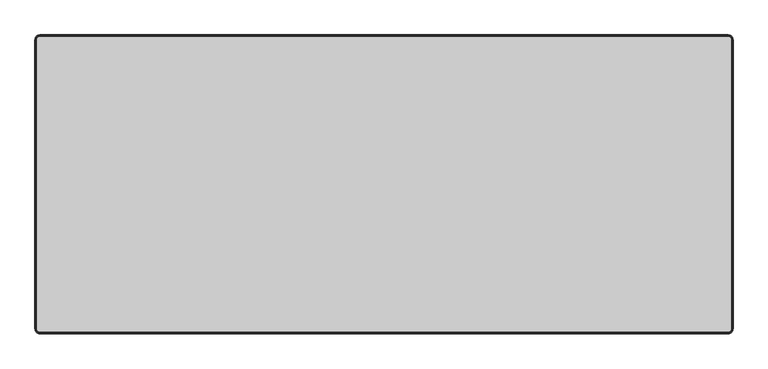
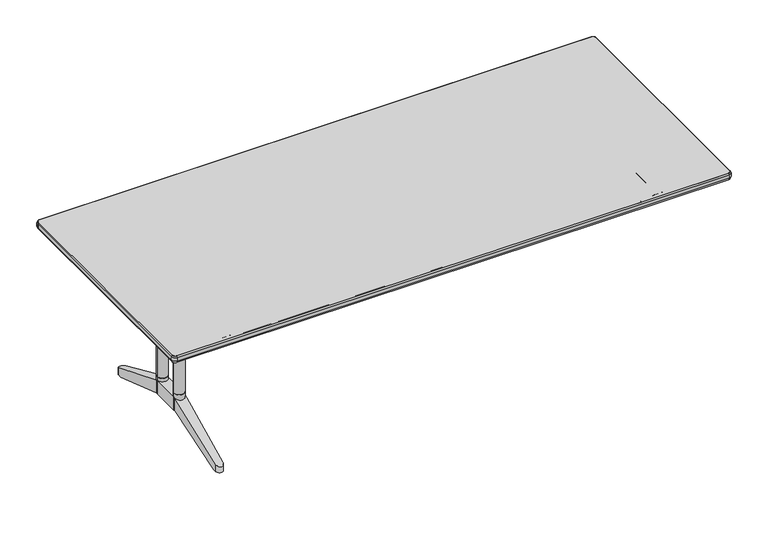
"""IFC4 building model written with IfcOpenShell, lengths in millimetres: furniture geometry."""

from ifc_helpers import new_model, si_unit, point, frame, frame_2d, origin, place, context, project, spatial, polyline, circle_curve, ellipse_curve, trimmed, segment, composite_curve, outline, extrude, source, transform, mapped, element, save
from ifc_brep_helpers import plane_surface, cylinder_surface, revolved_surface, advanced_brep


def furniture_46e24882(model_context):
    return source(origin(), model_context, "Body", "SolidModel", [
        extrude(outline(composite_curve([segment(trimmed(circle_curve(frame_2d((-812.8, -154.0488451)), 20.0), [point((-832.8, -154.0488451))], [point((-792.8, -154.0488451))], False, "CARTESIAN"), True, "CONTINUOUS"), segment(trimmed(circle_curve(frame_2d((-812.8, -154.0488451)), 20.0), [point((-792.8, -154.0488451))], [point((-832.8, -154.0488451))], False, "CARTESIAN"), True, "CONTINUOUS")], self_intersect=False)), frame((0.0, 0.0, 193.3080085), z_axis=(0.0, 0.0, 1.0), x_axis=(1.0, 0.0, 0.0)), (0.0, 0.0, 1.0), 68.8536941),
        extrude(outline(composite_curve([segment(trimmed(circle_curve(frame_2d((-812.8, -44.0488461)), 20.0), [point((-832.8, -44.0488461))], [point((-792.8, -44.0488461))], False, "CARTESIAN"), True, "CONTINUOUS"), segment(trimmed(circle_curve(frame_2d((-812.8, -44.0488461)), 20.0), [point((-792.8, -44.0488461))], [point((-832.8, -44.0488461))], False, "CARTESIAN"), True, "CONTINUOUS")], self_intersect=False)), frame((0.0, 0.0, 193.3080085), z_axis=(0.0, 0.0, 1.0), x_axis=(1.0, 0.0, 0.0)), (0.0, 0.0, 1.0), 68.8536941),
        extrude(outline(composite_curve([segment(trimmed(circle_curve(frame_2d((-812.8, -154.0488451)), 20.0), [point((-832.8, -154.0488451))], [point((-792.8, -154.0488451))], False, "CARTESIAN"), True, "CONTINUOUS"), segment(trimmed(circle_curve(frame_2d((-812.8, -154.0488451)), 20.0), [point((-792.8, -154.0488451))], [point((-832.8, -154.0488451))], False, "CARTESIAN"), True, "CONTINUOUS")], self_intersect=False)), frame((0.0, 0.0, 262.1617027), z_axis=(0.0, 0.0, 1.0), x_axis=(1.0, 0.0, 0.0)), (0.0, 0.0, 1.0), 318.0882973),
        extrude(outline(composite_curve([segment(trimmed(circle_curve(frame_2d((-812.8, -44.0488461)), 20.0), [point((-832.8, -44.0488461))], [point((-792.8, -44.0488461))], False, "CARTESIAN"), True, "CONTINUOUS"), segment(trimmed(circle_curve(frame_2d((-812.8, -44.0488461)), 20.0), [point((-792.8, -44.0488461))], [point((-832.8, -44.0488461))], False, "CARTESIAN"), True, "CONTINUOUS")], self_intersect=False)), frame((0.0, 0.0, 262.1617027), z_axis=(0.0, 0.0, 1.0), x_axis=(1.0, 0.0, 0.0)), (0.0, 0.0, 1.0), 318.0882973),
        extrude(outline(polyline([(-786.7999882, 147.9511612), (-786.7999882, -352.0488426), (-838.8000118, -352.0488426), (-838.8000118, 147.9511612), (-786.7999882, 147.9511612)])), frame((0.0, 0.0, 676.2500168), z_axis=(0.0, 0.0, 1.0), x_axis=(1.0, 0.0, 0.0)), (0.0, 0.0, 1.0), 27.9999624),
        advanced_brep(
        [(-827.7998762, -140.8200278, 676.2500168), (-797.7998905, -140.8201331, 676.2500168), (-797.7998905, -134.0488456, 676.2500168), (-827.7998762, -134.0488456, 676.2500168), (-797.7998905, -57.2775581, 676.2500168), (-827.7998762, -57.2776634, 676.2500168), (-827.7998762, -64.0488456, 676.2500168), (-797.7998905, -64.0488456, 676.2500168), (-827.7998762, -57.2776634, 580.25), (-797.7998905, -57.2775581, 580.25), (-797.7998905, -140.8201331, 580.25), (-827.7998762, -140.8200278, 580.25), (-827.7998762, -134.0488456, 598.2500176), (-827.7998762, -64.0488456, 598.2500176), (-797.7998905, -64.0488456, 598.2500176), (-797.7998905, -134.0488456, 598.2500176)],
        [
            (0, 1, circle_curve(frame((-812.7999298, -154.0488451, 676.2500168), z_axis=(0.0, 0.0, 1.0), x_axis=(1.0, 0.0, 0.0)), 20.0)),
            (1, 2),
            (2, 3),
            (3, 0),
            (4, 5, circle_curve(frame((-812.7999298, -44.0488461, 676.2500168), z_axis=(0.0, 0.0, 1.0), x_axis=(1.0, 0.0, 0.0)), 20.0)),
            (5, 6),
            (6, 7),
            (7, 4),
            (8, 9, circle_curve(frame((-812.7999298, -44.0488461, 580.25), z_axis=(0.0, 0.0, -1.0), x_axis=(1.0, 0.0, 0.0)), 20.0)),
            (9, 10),
            (10, 11, circle_curve(frame((-812.7999298, -154.0488451, 580.25), z_axis=(0.0, 0.0, -1.0), x_axis=(1.0, 0.0, 0.0)), 20.0)),
            (11, 8),
            (11, 0),
            (3, 12),
            (12, 13),
            (13, 6),
            (5, 8),
            (10, 1),
            (9, 4),
            (7, 14),
            (14, 15),
            (15, 2),
            (15, 12),
            (14, 13),
        ],
        [
            plane_surface(frame((-827.7998762, -140.8200278, 676.2500168), z_axis=(0.0, 0.0, 1.0), x_axis=(0.0, -1.0, 0.0))),
            plane_surface(frame((-827.7998762, -140.8200278, 580.25), z_axis=(0.0, 0.0, -1.0), x_axis=(0.0, 1.0, 0.0))),
            plane_surface(frame((-827.7998762, -57.2776634, 676.2500168), z_axis=(-1.0, 0.0, 0.0), x_axis=(0.0, 0.0, -1.0))),
            cylinder_surface(frame((-812.7999298, -154.0488451, 580.25), z_axis=(0.0, 0.0, 1.0), x_axis=(1.0, 0.0, 0.0)), 20.0),
            plane_surface(frame((-797.7998905, -140.8201331, 676.2500168), z_axis=(1.0, 0.0, 0.0), x_axis=(0.0, 0.0, -1.0))),
            cylinder_surface(frame((-812.7999298, -44.0488461, 580.25), z_axis=(0.0, 0.0, 1.0), x_axis=(1.0, 0.0, 0.0)), 20.0),
            plane_surface(frame((-797.7998905, -134.0488456, 676.2500168), z_axis=(0.0, 1.0, 0.0), x_axis=(-1.0, 0.0, 0.0))),
            plane_surface(frame((-797.7998905, -134.0488456, 598.2500176), z_axis=(0.0, 0.0, 1.0), x_axis=(-1.0, 0.0, 0.0))),
            plane_surface(frame((-797.7998905, -64.0488456, 598.2500176), z_axis=(0.0, -1.0, 0.0), x_axis=(-1.0, 0.0, 0.0))),
        ],
        [
            (0, [[1, 2, 3, 4]]),
            (0, [[5, 6, 7, 8]]),
            (1, [[9, 10, 11, 12]]),
            (2, [[-12, 13, -4, 14, 15, 16, -6, 17]]),
            (3, [[-1, -13, -11, 18]]),
            (4, [[-10, 19, -8, 20, 21, 22, -2, -18]]),
            (5, [[-5, -19, -9, -17]]),
            (6, [[23, -14, -3, -22]]),
            (7, [[-23, -21, 24, -15]]),
            (8, [[-24, -20, -7, -16]]),
        ],
    ),
        advanced_brep(
        [(-792.8000182, -154.0488451, 248.3080085), (-792.8000182, -44.0488461, 248.3080085), (-832.8000182, -44.0488461, 248.3080085), (-832.8000182, -154.0488451, 248.3080085), (-832.8000182, -44.0488461, 193.3080085), (-832.8000182, -154.0488451, 193.3080085), (-792.8000182, -154.0488451, 193.3080085), (-792.8000182, -44.0488461, 193.3080085), (-799.3271049, 208.4135103, 105.0), (-826.272897, 208.4135103, 105.0), (-825.9262294, 221.8222582, 105.0), (-799.6737706, 221.8222564, 105.0), (-825.9262294, 221.8222582, 133.4205559), (-799.6737706, 221.8222564, 133.4205567), (-793.0000412, -36.3121196, 193.3080085), (-832.5999941, -36.3121196, 193.3080085), (-799.6737706, -419.9199475, 133.4205567), (-825.9262294, -419.9199493, 133.4205559), (-799.6737706, -419.9199475, 105.0), (-799.3271049, -406.5112014, 105.0), (-793.0000412, -161.7855715, 193.3080085), (-825.9262294, -419.9199493, 105.0), (-832.5999941, -161.7855715, 193.3080085), (-826.272897, -406.5112014, 105.0)],
        [
            (0, 1),
            (1, 2),
            (2, 3),
            (3, 0),
            (2, 4),
            (4, 5),
            (5, 3),
            (0, 6),
            (6, 7),
            (7, 1),
            (8, 9),
            (9, 10),
            (10, 11, circle_curve(frame((-812.8, 221.4828948, 105.0), z_axis=(0.0, 0.0, -1.0), x_axis=(1.0, 0.0, 0.0)), 13.1306156)),
            (11, 8),
            (12, 2),
            (1, 13),
            (13, 12, ellipse_curve(frame((-812.8, 221.4828948, 133.5672007), z_axis=(0.0, 0.3966672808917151, 0.9179624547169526), x_axis=(0.0, 0.9179624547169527, -0.39666728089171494)), 14.3040878, 13.1306156)),
            (8, 14),
            (14, 15),
            (15, 9),
            (16, 0),
            (3, 17),
            (17, 16, ellipse_curve(frame((-812.8, -419.5805859, 133.5672007), z_axis=(0.0, -0.3966672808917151, 0.9179624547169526), x_axis=(0.0, -0.9179624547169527, -0.39666728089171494)), 14.3040878, 13.1306156)),
            (16, 18),
            (18, 19),
            (19, 20),
            (20, 6),
            (17, 21),
            (21, 18, circle_curve(frame((-812.8, -419.5805859, 105.0), z_axis=(0.0, 0.0, 1.0), x_axis=(1.0, 0.0, 0.0)), 13.1306156)),
            (5, 22),
            (22, 23),
            (23, 21),
            (12, 10),
            (15, 4),
            (13, 11),
            (7, 14),
            (23, 19),
            (22, 20),
        ],
        [
            plane_surface(frame((-792.8000182, -44.0488461, 248.3080085), z_axis=(0.0, 0.0, 1.0), x_axis=(0.0, 1.0, 0.0))),
            plane_surface(frame((-832.8000182, -44.0488461, 248.3080085), z_axis=(-1.0, 0.0, 0.0), x_axis=(0.0, 0.0, -1.0))),
            plane_surface(frame((-792.8000182, -154.0488451, 248.3080085), z_axis=(1.0, 0.0, 0.0), x_axis=(0.0, 0.0, -1.0))),
            plane_surface(frame((-791.4205415, 208.4135103, 105.0), z_axis=(0.0, 0.0, -1.0), x_axis=(-1.0, 0.0, 0.0))),
            plane_surface(frame((-791.4205415, 235.9511544, 127.3152182), z_axis=(0.0, 0.3966672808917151, 0.9179624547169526), x_axis=(-1.0, 0.0, 0.0))),
            plane_surface(frame((-791.4205415, -36.3121196, 193.3080085), z_axis=(0.0, -0.3394229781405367, -0.9406338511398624), x_axis=(-1.0, 0.0, 0.0))),
            plane_surface(frame((-791.4205415, -154.0488451, 248.3080085), z_axis=(0.0, -0.3966672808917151, 0.9179624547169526), x_axis=(-1.0, 0.0, 0.0))),
            plane_surface(frame((-792.8000182, -154.0488451, 249.0000084), z_axis=(0.9996659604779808, -0.025845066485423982, 0.0), x_axis=(0.0, 0.0, -1.0))),
            cylinder_surface(frame((-812.8, -419.5805859, 90.0000025), z_axis=(0.0, 0.0, -1.0), x_axis=(1.0, 0.0, 0.0)), 13.1306156),
            plane_surface(frame((-825.9262294, -419.9199493, 249.0000084), z_axis=(-0.9996659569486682, -0.025845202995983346, 0.0), x_axis=(0.0, 0.0, -1.0))),
            plane_surface(frame((-832.8000182, -44.0488461, 249.0000084), z_axis=(-0.9996659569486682, 0.025845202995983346, 0.0), x_axis=(0.0, 0.0, -1.0))),
            cylinder_surface(frame((-812.8, 221.4828948, 0.0), z_axis=(0.0, 0.0, -1.0), x_axis=(1.0, 0.0, 0.0)), 13.1306156),
            plane_surface(frame((-799.6737706, 221.8222564, 249.0000084), z_axis=(0.9996659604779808, 0.025845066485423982, 0.0), x_axis=(0.0, 0.0, -1.0))),
            plane_surface(frame((-791.4205415, -434.0488456, 105.0), z_axis=(0.0, 0.0, -1.0), x_axis=(-1.0, 0.0, 0.0))),
            plane_surface(frame((-791.4205415, -406.5112014, 105.0), z_axis=(0.0, 0.3394229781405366, -0.9406338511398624), x_axis=(-1.0, 0.0, 0.0))),
            plane_surface(frame((-791.4205415, -44.0488461, 193.3080085), z_axis=(0.0, 0.0, -1.0), x_axis=(-1.0, 0.0, 0.0))),
        ],
        [
            (0, [[1, 2, 3, 4]]),
            (1, [[-3, 5, 6, 7]]),
            (2, [[-1, 8, 9, 10]]),
            (3, [[11, 12, 13, 14]]),
            (4, [[15, -2, 16, 17]]),
            (5, [[-11, 18, 19, 20]]),
            (6, [[21, -4, 22, 23]]),
            (7, [[24, 25, 26, 27, -8, -21]]),
            (8, [[-24, -23, 28, 29]]),
            (9, [[-28, -22, -7, 30, 31, 32]]),
            (10, [[33, -12, -20, 34, -5, -15]]),
            (11, [[-33, -17, 35, -13]]),
            (12, [[-35, -16, -10, 36, -18, -14]]),
            (13, [[37, -25, -29, -32]]),
            (14, [[-37, -31, 38, -26]]),
            (15, [[-19, -36, -9, -27, -38, -30, -6, -34]]),
        ],
    ),
        extrude(outline(composite_curve([segment(trimmed(circle_curve(frame_2d((-1051.8, 343.1511544)), 10.0), [point((-1061.8, 343.1511544))], [point((-1051.8, 353.1511544))], False, "CARTESIAN"), True, "CONTINUOUS"), segment(polyline([(-1051.8, 353.1511544), (1051.8, 353.1511544)]), True, "CONTINUOUS"), segment(trimmed(circle_curve(frame_2d((1051.8, 343.1511544)), 10.0), [point((1051.8, 353.1511544))], [point((1061.8, 343.1511544))], False, "CARTESIAN"), True, "CONTINUOUS"), segment(polyline([(1061.8, 343.1511544), (1061.8, -541.2488456)]), True, "CONTINUOUS"), segment(trimmed(circle_curve(frame_2d((1051.8, -541.2488456)), 10.0), [point((1061.8, -541.2488456))], [point((1051.8, -551.2488456))], False, "CARTESIAN"), True, "CONTINUOUS"), segment(polyline([(1051.8, -551.2488456), (-1051.8, -551.2488456)]), True, "CONTINUOUS"), segment(trimmed(circle_curve(frame_2d((-1051.8, -541.2488456)), 10.0), [point((-1051.8, -551.2488456))], [point((-1061.8, -541.2488456))], False, "CARTESIAN"), True, "CONTINUOUS"), segment(polyline([(-1061.8, -541.2488456), (-1061.8, 343.1511544)]), True, "CONTINUOUS")], self_intersect=False)), frame((0.0, 0.0, 704.2499792), z_axis=(0.0, 0.0, 1.0), x_axis=(1.0, 0.0, 0.0)), (0.0, 0.0, 1.0), 26.0000208),
        extrude(outline(composite_curve([segment(trimmed(circle_curve(frame_2d((690.249998, -812.8)), 3.5), [point((686.749998, -812.8))], [point((693.749998, -812.8))], False, "CARTESIAN"), True, "CONTINUOUS"), segment(trimmed(circle_curve(frame_2d((690.249998, -812.8)), 3.5), [point((693.749998, -812.8))], [point((686.749998, -812.8))], False, "CARTESIAN"), True, "CONTINUOUS")], self_intersect=False)), frame((0.0, -482.6394749, 0.0), z_axis=(0.0, 1.0, 0.0), x_axis=(0.0, 0.0, 1.0)), (0.0, 0.0, 1.0), 130.5906323),
        extrude(outline(composite_curve([segment(trimmed(circle_curve(frame_2d((690.249998, 812.8)), 3.5), [point((686.749998, 812.8))], [point((693.749998, 812.8))], False, "CARTESIAN"), True, "CONTINUOUS"), segment(trimmed(circle_curve(frame_2d((690.249998, 812.8)), 3.5), [point((693.749998, 812.8))], [point((686.749998, 812.8))], False, "CARTESIAN"), True, "CONTINUOUS")], self_intersect=False)), frame((0.0, -482.6394749, 0.0), z_axis=(0.0, 1.0, 0.0), x_axis=(0.0, 0.0, 1.0)), (0.0, 0.0, 1.0), 130.5906323),
        advanced_brep(
        [(-1051.8, -551.2488456, 704.2499792), (-1061.8, -541.2488456, 704.2499792), (-1061.8, -541.2488456, 730.25), (-1051.8, -551.2488456, 730.25), (-1051.8, -554.6983863, 710.6562743), (-1065.2495407, -541.2488456, 710.6562743), (-1063.0436764, -541.2488456, 704.2499792), (-1051.8, -552.492522, 704.2499792), (-1051.8, -554.6983863, 723.843705), (-1065.2495407, -541.2488456, 723.843705), (-1051.8, -552.492522, 730.25), (-1063.0436764, -541.2488456, 730.25), (1051.8, -551.2488456, 730.25), (1051.8, -551.2488456, 704.2499792), (1051.8, -552.492522, 704.2499792), (1051.8, -554.6983863, 710.6562743), (1051.8, -554.6983863, 723.843705), (1051.8, -552.492522, 730.25), (1061.8, -541.2488456, 704.2499792), (1061.8, -541.2488456, 730.25), (1065.2495407, -541.2488456, 710.6562743), (1063.0436764, -541.2488456, 704.2499792), (1065.2495407, -541.2488456, 723.843705), (1063.0436764, -541.2488456, 730.25), (1061.8, 343.1511544, 730.25), (1061.8, 343.1511544, 704.2499792), (1063.0436764, 343.1511544, 704.2499792), (1065.2495407, 343.1511544, 710.6562743), (1065.2495407, 343.1511544, 723.843705), (1063.0436764, 343.1511544, 730.25), (1051.8, 353.1511544, 704.2499792), (1051.8, 353.1511544, 730.25), (1051.8, 356.6006952, 710.6562743), (1051.8, 354.3948309, 704.2499792), (1051.8, 356.6006952, 723.843705), (1051.8, 354.3948309, 730.25), (-1051.8, 353.1511544, 730.25), (-1051.8, 353.1511544, 704.2499792), (-1051.8, 354.3948309, 704.2499792), (-1051.8, 356.6006952, 710.6562743), (-1051.8, 356.6006952, 723.843705), (-1051.8, 354.3948309, 730.25), (-1061.8, 343.1511544, 704.2499792), (-1061.8, 343.1511544, 730.25), (-1065.2495407, 343.1511544, 710.6562743), (-1063.0436764, 343.1511544, 704.2499792), (-1065.2495407, 343.1511544, 723.843705), (-1063.0436764, 343.1511544, 730.25)],
        [
            (0, 1, circle_curve(frame((-1051.8, -541.2488456, 704.2499792), z_axis=(0.0, 0.0, -1.0), x_axis=(-1.0, 0.0, 0.0)), 10.0)),
            (1, 2),
            (2, 3, circle_curve(frame((-1051.8, -541.2488456, 730.25), z_axis=(0.0, 0.0, 1.0), x_axis=(-1.0, 0.0, 0.0)), 10.0)),
            (3, 0),
            (4, 5, circle_curve(frame((-1051.8, -541.2488456, 710.6562743), z_axis=(0.0, 0.0, -1.0), x_axis=(-1.0, 0.0, 0.0)), 13.4495407)),
            (5, 6),
            (6, 7, circle_curve(frame((-1051.8, -541.2488456, 704.2499792), z_axis=(0.0, 0.0, 1.0), x_axis=(-1.0, 0.0, 0.0)), 11.2436764)),
            (7, 4),
            (8, 9, circle_curve(frame((-1051.8, -541.2488456, 723.843705), z_axis=(0.0, 0.0, -1.0), x_axis=(-1.0, 0.0, 0.0)), 13.4495407)),
            (9, 5, circle_curve(frame((-1052.0040596, -541.2488456, 717.2499896), z_axis=(0.0, -1.0, 0.0), x_axis=(1.0, 0.0, 0.0)), 14.7959404)),
            (4, 8, circle_curve(frame((-1051.8, -541.4529051, 717.2499896), z_axis=(-1.0, 0.0, 0.0), x_axis=(0.0, 1.0, 0.0)), 14.7959404)),
            (10, 11, circle_curve(frame((-1051.8, -541.2488456, 730.25), z_axis=(0.0, 0.0, -1.0), x_axis=(-1.0, 0.0, 0.0)), 11.2436764)),
            (11, 9),
            (8, 10),
            (3, 12),
            (12, 13),
            (13, 0),
            (7, 14),
            (14, 15),
            (15, 4),
            (15, 16, circle_curve(frame((1051.8, -541.4529051, 717.2499896), z_axis=(-1.0, 0.0, 0.0), x_axis=(0.0, 1.0, 0.0)), 14.7959404)),
            (16, 8),
            (16, 17),
            (17, 10),
            (18, 13, circle_curve(frame((1051.8, -541.2488456, 704.2499792), z_axis=(0.0, 0.0, -1.0), x_axis=(0.0, -1.0, 0.0)), 10.0)),
            (12, 19, circle_curve(frame((1051.8, -541.2488456, 730.25), z_axis=(0.0, 0.0, 1.0), x_axis=(0.0, -1.0, 0.0)), 10.0)),
            (19, 18),
            (20, 15, circle_curve(frame((1051.8, -541.2488456, 710.6562743), z_axis=(0.0, 0.0, -1.0), x_axis=(0.0, -1.0, 0.0)), 13.4495407)),
            (14, 21, circle_curve(frame((1051.8, -541.2488456, 704.2499792), z_axis=(0.0, 0.0, 1.0), x_axis=(0.0, -1.0, 0.0)), 11.2436764)),
            (21, 20),
            (22, 16, circle_curve(frame((1051.8, -541.2488456, 723.843705), z_axis=(0.0, 0.0, -1.0), x_axis=(0.0, -1.0, 0.0)), 13.4495407)),
            (20, 22, circle_curve(frame((1052.0040596, -541.2488456, 717.2499896), z_axis=(0.0, -1.0, 0.0), x_axis=(-1.0, 0.0, 0.0)), 14.7959404)),
            (23, 17, circle_curve(frame((1051.8, -541.2488456, 730.25), z_axis=(0.0, 0.0, -1.0), x_axis=(0.0, -1.0, 0.0)), 11.2436764)),
            (22, 23),
            (19, 24),
            (24, 25),
            (25, 18),
            (21, 26),
            (26, 27),
            (27, 20),
            (27, 28, circle_curve(frame((1052.0040596, 343.1511544, 717.2499896), z_axis=(0.0, -1.0, 0.0), x_axis=(-1.0, 0.0, 0.0)), 14.7959404)),
            (28, 22),
            (28, 29),
            (29, 23),
            (30, 25, circle_curve(frame((1051.8, 343.1511544, 704.2499792), z_axis=(0.0, 0.0, -1.0), x_axis=(1.0, 0.0, 0.0)), 10.0)),
            (24, 31, circle_curve(frame((1051.8, 343.1511544, 730.25), z_axis=(0.0, 0.0, 1.0), x_axis=(1.0, 0.0, 0.0)), 10.0)),
            (31, 30),
            (32, 27, circle_curve(frame((1051.8, 343.1511544, 710.6562743), z_axis=(0.0, 0.0, -1.0), x_axis=(1.0, 0.0, 0.0)), 13.4495407)),
            (26, 33, circle_curve(frame((1051.8, 343.1511544, 704.2499792), z_axis=(0.0, 0.0, 1.0), x_axis=(1.0, 0.0, 0.0)), 11.2436764)),
            (33, 32),
            (34, 28, circle_curve(frame((1051.8, 343.1511544, 723.843705), z_axis=(0.0, 0.0, -1.0), x_axis=(1.0, 0.0, 0.0)), 13.4495407)),
            (32, 34, circle_curve(frame((1051.8, 343.355214, 717.2499896), z_axis=(1.0, 0.0, 0.0), x_axis=(0.0, -1.0, 0.0)), 14.7959404)),
            (35, 29, circle_curve(frame((1051.8, 343.1511544, 730.25), z_axis=(0.0, 0.0, -1.0), x_axis=(1.0, 0.0, 0.0)), 11.2436764)),
            (34, 35),
            (31, 36),
            (36, 37),
            (37, 30),
            (33, 38),
            (38, 39),
            (39, 32),
            (39, 40, circle_curve(frame((-1051.8, 343.355214, 717.2499896), z_axis=(1.0, 0.0, 0.0), x_axis=(0.0, -1.0, 0.0)), 14.7959404)),
            (40, 34),
            (40, 41),
            (41, 35),
            (42, 37, circle_curve(frame((-1051.8, 343.1511544, 704.2499792), z_axis=(0.0, 0.0, -1.0), x_axis=(0.0, 1.0, 0.0)), 10.0)),
            (36, 43, circle_curve(frame((-1051.8, 343.1511544, 730.25), z_axis=(0.0, 0.0, 1.0), x_axis=(0.0, 1.0, 0.0)), 10.0)),
            (43, 42),
            (44, 39, circle_curve(frame((-1051.8, 343.1511544, 710.6562743), z_axis=(0.0, 0.0, -1.0), x_axis=(0.0, 1.0, 0.0)), 13.4495407)),
            (38, 45, circle_curve(frame((-1051.8, 343.1511544, 704.2499792), z_axis=(0.0, 0.0, 1.0), x_axis=(0.0, 1.0, 0.0)), 11.2436764)),
            (45, 44),
            (46, 40, circle_curve(frame((-1051.8, 343.1511544, 723.843705), z_axis=(0.0, 0.0, -1.0), x_axis=(0.0, 1.0, 0.0)), 13.4495407)),
            (44, 46, circle_curve(frame((-1052.0040596, 343.1511544, 717.2499896), z_axis=(0.0, 1.0, 0.0), x_axis=(1.0, 0.0, 0.0)), 14.7959404)),
            (47, 41, circle_curve(frame((-1051.8, 343.1511544, 730.25), z_axis=(0.0, 0.0, -1.0), x_axis=(0.0, 1.0, 0.0)), 11.2436764)),
            (46, 47),
            (43, 2),
            (1, 42),
            (45, 6),
            (5, 44),
            (9, 46),
            (11, 47),
        ],
        [
            revolved_surface(polyline([(-1061.8, -541.2488456, 730.25), (-1061.8, -541.2488456, 704.2499792)]), (-1051.8, -541.2488456, 730.25), (0.0, 0.0, 1.0)),
            revolved_surface(polyline([(-1063.0436764, -541.2488456, 704.2499792), (-1065.2495407, -541.2488456, 710.6562743)]), (-1051.8, -541.2488456, 730.25), (0.0, 0.0, 1.0)),
            revolved_surface(trimmed(ellipse_curve(frame((-1052.0040596, -541.2488456, 717.2499896), z_axis=(0.0, 1.0, 0.0), x_axis=(1.0, 0.0, 0.0)), 14.7959404, 14.7959404), [point((-1065.2495407, -541.2488456, 710.6562743))], [point((-1065.2495407, -541.2488456, 723.843705))], True, "CARTESIAN"), (-1051.8, -541.2488456, 730.25), (0.0, 0.0, 1.0)),
            revolved_surface(polyline([(-1065.2495407, -541.2488456, 723.843705), (-1063.0436764, -541.2488456, 730.25)]), (-1051.8, -541.2488456, 730.25), (0.0, 0.0, 1.0)),
            plane_surface(frame((-1051.8, -551.2488456, 730.25), z_axis=(0.0, 1.0, 0.0), x_axis=(1.0, 0.0, 0.0))),
            plane_surface(frame((-1051.8, -552.492522, 704.2499792), z_axis=(0.0, -0.9455185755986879, -0.32556815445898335), x_axis=(1.0, 0.0, 0.0))),
            cylinder_surface(frame((-1051.8, -541.4529051, 717.2499896), z_axis=(-1.0, 0.0, 0.0), x_axis=(0.0, 1.0, 0.0)), 14.7959404),
            plane_surface(frame((-1051.8, -554.6983863, 723.843705), z_axis=(0.0, -0.945518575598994, 0.32556815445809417), x_axis=(1.0, 0.0, 0.0))),
            revolved_surface(polyline([(1051.8, -551.2488456, 730.25), (1051.8, -551.2488456, 704.2499792)]), (1051.8, -541.2488456, 730.25), (0.0, 0.0, 1.0)),
            revolved_surface(polyline([(1051.8, -552.492522, 704.2499792), (1051.8, -554.6983863, 710.6562743)]), (1051.8, -541.2488456, 730.25), (0.0, 0.0, 1.0)),
            revolved_surface(trimmed(ellipse_curve(frame((1051.8, -541.4529051, 717.2499896), z_axis=(-1.0, 0.0, 0.0), x_axis=(0.0, 1.0, 0.0)), 14.7959404, 14.7959404), [point((1051.8, -554.6983863, 710.6562743))], [point((1051.8, -554.6983863, 723.843705))], True, "CARTESIAN"), (1051.8, -541.2488456, 730.25), (0.0, 0.0, 1.0)),
            revolved_surface(polyline([(1051.8, -554.6983863, 723.843705), (1051.8, -552.492522, 730.25)]), (1051.8, -541.2488456, 730.25), (0.0, 0.0, 1.0)),
            plane_surface(frame((1061.8, -541.2488456, 730.25), z_axis=(-1.0, 0.0, 0.0), x_axis=(0.0, 1.0, 0.0))),
            plane_surface(frame((1063.0436764, -541.2488456, 704.2499792), z_axis=(0.9455185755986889, 0.0, -0.32556815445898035), x_axis=(0.0, 1.0, 0.0))),
            cylinder_surface(frame((1052.0040596, -541.2488456, 717.2499896), z_axis=(0.0, -1.0, 0.0), x_axis=(-1.0, 0.0, 0.0)), 14.7959404),
            plane_surface(frame((1065.2495407, -541.2488456, 723.843705), z_axis=(0.945518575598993, 0.0, 0.32556815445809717), x_axis=(0.0, 1.0, 0.0))),
            revolved_surface(polyline([(1061.8, 343.1511544, 730.25), (1061.8, 343.1511544, 704.2499792)]), (1051.8, 343.1511544, 730.25), (0.0, 0.0, 1.0)),
            revolved_surface(polyline([(1063.0436764, 343.1511544, 704.2499792), (1065.2495407, 343.1511544, 710.6562743)]), (1051.8, 343.1511544, 730.25), (0.0, 0.0, 1.0)),
            revolved_surface(trimmed(ellipse_curve(frame((1052.0040596, 343.1511544, 717.2499896), z_axis=(0.0, -1.0, 0.0), x_axis=(-1.0, 0.0, 0.0)), 14.7959404, 14.7959404), [point((1065.2495407, 343.1511544, 710.6562743))], [point((1065.2495407, 343.1511544, 723.843705))], True, "CARTESIAN"), (1051.8, 343.1511544, 730.25), (0.0, 0.0, 1.0)),
            revolved_surface(polyline([(1065.2495407, 343.1511544, 723.843705), (1063.0436764, 343.1511544, 730.25)]), (1051.8, 343.1511544, 730.25), (0.0, 0.0, 1.0)),
            plane_surface(frame((1051.8, 353.1511544, 730.25), z_axis=(0.0, -1.0, 0.0), x_axis=(-1.0, 0.0, 0.0))),
            plane_surface(frame((1051.8, 354.3948309, 704.2499792), z_axis=(0.0, 0.9455185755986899, -0.32556815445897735), x_axis=(-1.0, 0.0, 0.0))),
            cylinder_surface(frame((1051.8, 343.355214, 717.2499896), z_axis=(1.0, 0.0, 0.0), x_axis=(0.0, -1.0, 0.0)), 14.7959404),
            plane_surface(frame((1051.8, 356.6006952, 723.843705), z_axis=(0.0, 0.945518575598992, 0.32556815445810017), x_axis=(-1.0, 0.0, 0.0))),
            revolved_surface(polyline([(-1051.8, 353.1511544, 730.25), (-1051.8, 353.1511544, 704.2499792)]), (-1051.8, 343.1511544, 730.25), (0.0, 0.0, 1.0)),
            revolved_surface(polyline([(-1051.8, 354.3948309, 704.2499792), (-1051.8, 356.6006952, 710.6562743)]), (-1051.8, 343.1511544, 730.25), (0.0, 0.0, 1.0)),
            revolved_surface(trimmed(ellipse_curve(frame((-1051.8, 343.355214, 717.2499896), z_axis=(1.0, 0.0, 0.0), x_axis=(0.0, -1.0, 0.0)), 14.7959404, 14.7959404), [point((-1051.8, 356.6006952, 710.6562743))], [point((-1051.8, 356.6006952, 723.843705))], True, "CARTESIAN"), (-1051.8, 343.1511544, 730.25), (0.0, 0.0, 1.0)),
            revolved_surface(polyline([(-1051.8, 356.6006952, 723.843705), (-1051.8, 354.3948309, 730.25)]), (-1051.8, 343.1511544, 730.25), (0.0, 0.0, 1.0)),
            plane_surface(frame((-1061.8, 343.1511544, 730.25), z_axis=(1.0, 0.0, 0.0), x_axis=(0.0, -1.0, 0.0))),
            plane_surface(frame((-1063.0436764, 343.1511544, 704.2499792), z_axis=(-0.9455185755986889, 0.0, -0.32556815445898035), x_axis=(0.0, -1.0, 0.0))),
            cylinder_surface(frame((-1052.0040596, 343.1511544, 717.2499896), z_axis=(0.0, 1.0, 0.0), x_axis=(1.0, 0.0, 0.0)), 14.7959404),
            plane_surface(frame((-1065.2495407, 343.1511544, 723.843705), z_axis=(-0.945518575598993, 0.0, 0.32556815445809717), x_axis=(0.0, -1.0, 0.0))),
            plane_surface(frame((-1061.8, 343.1511544, 704.2499792), z_axis=(0.0, 0.0, -1.0), x_axis=(0.0, -1.0, 0.0))),
            plane_surface(frame((-1063.0436764, 343.1511544, 730.25), z_axis=(0.0, 0.0, 1.0), x_axis=(0.0, -1.0, 0.0))),
        ],
        [
            (0, [[1, 2, 3, 4]]),
            (1, [[5, 6, 7, 8]]),
            (2, [[9, 10, -5, 11]]),
            (3, [[12, 13, -9, 14]]),
            (4, [[-4, 15, 16, 17]]),
            (5, [[-8, 18, 19, 20]]),
            (6, [[-11, -20, 21, 22]]),
            (7, [[-14, -22, 23, 24]]),
            (8, [[25, -16, 26, 27]]),
            (9, [[28, -19, 29, 30]]),
            (10, [[31, -21, -28, 32]]),
            (11, [[33, -23, -31, 34]]),
            (12, [[-27, 35, 36, 37]]),
            (13, [[-30, 38, 39, 40]]),
            (14, [[-32, -40, 41, 42]]),
            (15, [[-34, -42, 43, 44]]),
            (16, [[45, -36, 46, 47]]),
            (17, [[48, -39, 49, 50]]),
            (18, [[51, -41, -48, 52]]),
            (19, [[53, -43, -51, 54]]),
            (20, [[-47, 55, 56, 57]]),
            (21, [[-50, 58, 59, 60]]),
            (22, [[-52, -60, 61, 62]]),
            (23, [[-54, -62, 63, 64]]),
            (24, [[65, -56, 66, 67]]),
            (25, [[68, -59, 69, 70]]),
            (26, [[71, -61, -68, 72]]),
            (27, [[73, -63, -71, 74]]),
            (28, [[-67, 75, -2, 76]]),
            (29, [[-70, 77, -6, 78]]),
            (30, [[-72, -78, -10, 79]]),
            (31, [[-74, -79, -13, 80]]),
            (32, [[-77, -69, -58, -49, -38, -29, -18, -7], [-57, -65, -76, -1, -17, -25, -37, -45]]),
            (33, [[-64, -73, -80, -12, -24, -33, -44, -53], [-75, -66, -55, -46, -35, -26, -15, -3]]),
        ],
    ),
        advanced_brep(
        [(-838.7999286, -482.6394749, 701.9835614), (-838.7999286, -482.6394749, 686.9835614), (-757.9927788, -482.6394749, 678.983541), (-756.800359, -482.6394749, 693.983541), (756.800359, -482.6394749, 693.983541), (757.9927788, -482.6394749, 678.983541), (838.6748715, -482.6394749, 701.9835614), (838.6748715, -482.6394749, 686.9835614), (806.8003594, -482.6394749, 701.9835614), (807.9927792, -482.6394749, 686.9835614), (-806.8003594, -482.6394749, 701.9835614), (-807.9927792, -482.6394749, 686.9835614)],
        [
            (0, 1, circle_curve(frame((-838.7999286, -482.6394749, 694.4835614), z_axis=(-1.0, 0.0, 0.0), x_axis=(0.0, 0.0, -1.0)), 7.5)),
            (1, 0, circle_curve(frame((-838.7999286, -482.6394749, 694.4835614), z_axis=(-1.0, 0.0, 0.0), x_axis=(0.0, 0.0, -1.0)), 7.5)),
            (2, 3, ellipse_curve(frame((-757.3965689, -482.6394749, 686.483541), z_axis=(0.9968551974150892, 0.0, -0.07924465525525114), x_axis=(-0.07924465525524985, 0.0, -0.9968551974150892)), 7.5236604, 7.5)),
            (3, 4),
            (4, 5, ellipse_curve(frame((757.3965689, -482.6394749, 686.483541), z_axis=(-0.9968551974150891, 0.0, -0.07924465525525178), x_axis=(-0.07924465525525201, 0.0, 0.9968551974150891)), 7.5236604, 7.5)),
            (5, 2),
            (3, 2, ellipse_curve(frame((-757.3965689, -482.6394749, 686.483541), z_axis=(0.9968551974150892, 0.0, -0.07924465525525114), x_axis=(-0.07924465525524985, 0.0, -0.9968551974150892)), 7.5236604, 7.5)),
            (5, 4, ellipse_curve(frame((757.3965689, -482.6394749, 686.483541), z_axis=(-0.9968551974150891, 0.0, -0.07924465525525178), x_axis=(-0.07924465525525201, 0.0, 0.9968551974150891)), 7.5236604, 7.5)),
            (6, 7, circle_curve(frame((838.6748715, -482.6394749, 694.4835614), z_axis=(1.0, 0.0, 0.0), x_axis=(0.0, 0.0, -1.0)), 7.5)),
            (7, 6, circle_curve(frame((838.6748715, -482.6394749, 694.4835614), z_axis=(1.0, 0.0, 0.0), x_axis=(0.0, 0.0, -1.0)), 7.5)),
            (4, 8),
            (8, 9, ellipse_curve(frame((807.3965693, -482.6394749, 694.4835614), z_axis=(-0.9968551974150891, 0.0, -0.07924465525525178), x_axis=(0.07924465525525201, 0.0, -0.9968551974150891)), 7.5236604, 7.5)),
            (9, 5),
            (9, 8, ellipse_curve(frame((807.3965693, -482.6394749, 694.4835614), z_axis=(-0.9968551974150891, 0.0, -0.07924465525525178), x_axis=(0.07924465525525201, 0.0, -0.9968551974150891)), 7.5236604, 7.5)),
            (8, 6),
            (7, 9),
            (0, 10),
            (10, 11, ellipse_curve(frame((-807.3965693, -482.6394749, 694.4835614), z_axis=(-0.9968551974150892, 0.0, 0.07924465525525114), x_axis=(-0.07924465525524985, 0.0, -0.9968551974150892)), 7.5236604, 7.5)),
            (11, 1),
            (11, 10, ellipse_curve(frame((-807.3965693, -482.6394749, 694.4835614), z_axis=(-0.9968551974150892, 0.0, 0.07924465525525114), x_axis=(-0.07924465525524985, 0.0, -0.9968551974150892)), 7.5236604, 7.5)),
            (10, 3),
            (2, 11),
        ],
        [
            plane_surface(frame((-838.7999286, -556.2488456, 664.2500082), z_axis=(-1.0, 0.0, 0.0), x_axis=(0.0, 1.0, 0.0))),
            cylinder_surface(frame((-759.7999746, -482.6394749, 686.483541), z_axis=(-1.0, 0.0, 0.0), x_axis=(0.0, 0.0, -1.0)), 7.5),
            plane_surface(frame((838.6748715, -556.2488456, 664.2500082), z_axis=(1.0, 0.0, 0.0), x_axis=(0.0, 1.0, 0.0))),
            cylinder_surface(frame((755.0233486, -482.6394749, 686.1038248), z_axis=(-0.9874405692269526, 0.0, -0.15799089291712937), x_axis=(0.15799089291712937, 0.0, -0.9874405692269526)), 7.5),
            cylinder_surface(frame((809.799975, -482.6394749, 694.4835614), z_axis=(-1.0, 0.0, 0.0), x_axis=(0.0, 0.0, -1.0)), 7.5),
            cylinder_surface(frame((-838.7999286, -482.6394749, 694.4835614), z_axis=(-1.0, 0.0, 0.0), x_axis=(0.0, 0.0, -1.0)), 7.5),
            cylinder_surface(frame((-805.0233489, -482.6394749, 694.1038452), z_axis=(-0.9874405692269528, 0.0, 0.15799089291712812), x_axis=(-0.15799089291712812, 0.0, -0.9874405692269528)), 7.5),
        ],
        [
            (0, [[1, 2]]),
            (1, [[3, 4, 5, 6]]),
            (1, [[7, -6, 8, -4]]),
            (2, [[9, 10]]),
            (3, [[-5, 11, 12, 13]]),
            (3, [[-8, -13, 14, -11]]),
            (4, [[-12, 15, -10, 16]]),
            (4, [[-14, -16, -9, -15]]),
            (5, [[-1, 17, 18, 19]]),
            (5, [[-2, -19, 20, -17]]),
            (6, [[-18, 21, -3, 22]]),
            (6, [[-20, -22, -7, -21]]),
        ],
    ),
        extrude(outline(polyline([(-66.0488461, 600.2500046), (-66.0488461, 658.2500254), (-64.0488456, 658.2500254), (-64.0488456, 598.2500176), (-134.0488456, 598.2500176), (-134.0488456, 658.2500254), (-132.048845, 658.2500254), (-132.048845, 600.2500046), (-66.0488461, 600.2500046)])), frame((-827.8, 0.0, 0.0), z_axis=(1.0, 0.0, 0.0), x_axis=(0.0, 1.0, 0.0)), (0.0, 0.0, 1.0), 1655.6),
    ])


if __name__ == "__main__":
    model = new_model("IFC4")
    model_context = context("Model", 3, world=origin())
    ifc_project = project(units=[si_unit("LENGTHUNIT", "METRE", prefix="MILLI")], contexts=[model_context])
    site = spatial("IfcSite", under=ifc_project)
    building = spatial("IfcBuilding", under=site)
    placement = place(None, origin())
    furniture_shape = furniture_46e24882(model_context)
    element("IfcFurniture", 1, ObjectType="Furniture_Wilkhahn_Timetable_614-00_Shift : 36\"W x 84\"L", at=placement, inside=building, context=model_context, shape_type="MappedRepresentation", body=[
        mapped(furniture_shape, transform((0.0, 0.0, 0.0), x_axis=(1.0, 0.0, 0.0), y_axis=(0.0, 1.0, 0.0), z_axis=(0.0, 0.0, 1.0))),
    ])
    save(model, "model.ifc")
